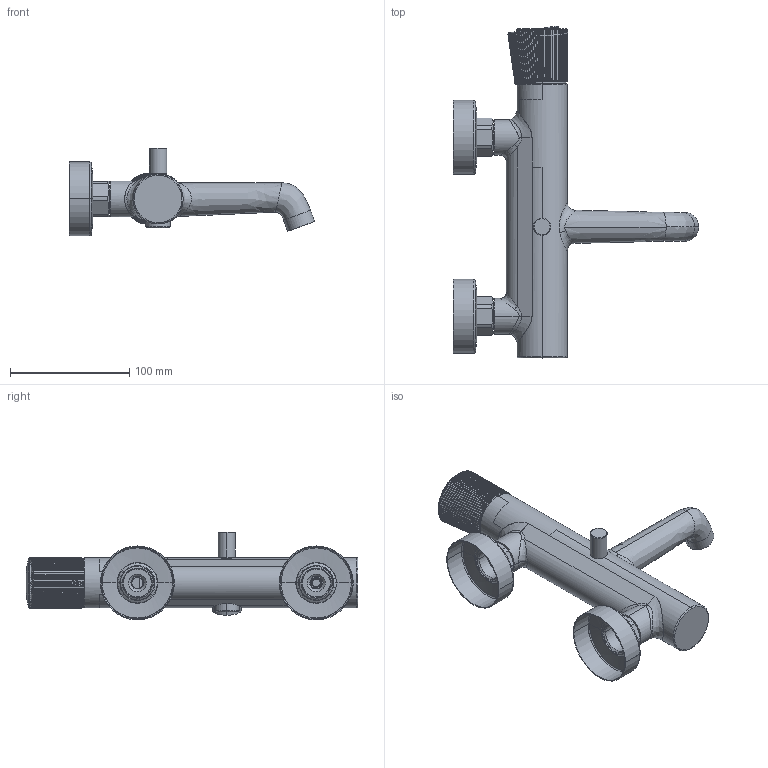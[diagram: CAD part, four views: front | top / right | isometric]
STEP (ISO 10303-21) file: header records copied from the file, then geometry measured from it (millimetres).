
FILE_DESCRIPTION((''),'2;1');
FILE_NAME('156810001OLT_ASM','2022-08-08T14:18:30',('tec30'),(''),'CREO PARAMETRIC BY PTC INC, 2018260','CREO PARAMETRIC BY PTC INC, 2018260','');
FILE_SCHEMA(('CONFIG_CONTROL_DESIGN'));
Products named in the file (20): 201015680126; 204080080126-1; 204080080126-2; 204080080126-3; 204080080126-4; 204080080126-5; 204080080126-6; 204080080126_ASM; 203020409901; 205071571602; 205070140126; 206021581626; 209010440126; 205074120102; 206094140102; 204011729901; 205055110126; 205021290102; 202011070126; 156810001OLT_ASM
Assembly tree (24 placements, depth 3):
  156810001OLT_ASM
    201015680126
    204080080126_ASM
      204080080126-1
      204080080126-2
      204080080126-3  x2
      204080080126-4
      204080080126-5
      204080080126-6
    203020409901
    205071571602  x2
    205070140126  x2
    206021581626  x2
    209010440126
    205074120102
    206094140102
    204011729901
    205055110126
    205021290102
    202011070126  x2
Bounding box: 205.64 x 278.43 x 73.65 mm (x, y, z)
Volume: 258219.1 mm3; surface area: 211606.3 mm2
Topology: 23 solids, 48 shells, 2105 faces, 5273 edges, 3319 vertices
Faces by surface type: cylinder 782, plane 775, bspline 207, cone 196, torus 113, sphere 32
Entity records: 74941 total; most frequent: CARTESIAN_POINT 32184, ORIENTED_EDGE 8860, DIRECTION 8650, EDGE_CURVE 4486, AXIS2_PLACEMENT_3D 3179, VERTEX_POINT 2830, VECTOR 2292, LINE 2292
